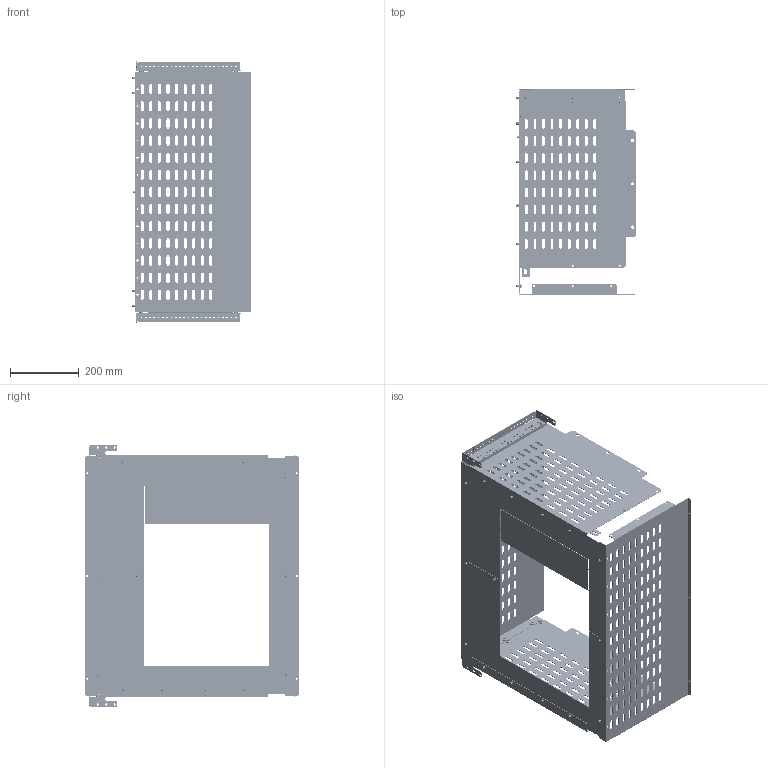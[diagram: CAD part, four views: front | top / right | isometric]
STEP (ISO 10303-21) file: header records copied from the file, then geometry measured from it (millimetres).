
FILE_DESCRIPTION (( 'STEP AP214' ), '1' );
FILE_NAME ('FO-00-3AEFW-060-080 Êîìïëåêò ñåêöèîíèðîâàíèÿ 2a-3a äëÿ ARMAT ACB òèïîðàçìåð EIIF âûêàòíîãî èñïîëíåíèÿ 3II4P 600õ800.STEP', '2025-08-21T07:20:53', ( '' ), ( '' ), 'SwSTEP 2.0', 'SolidWorks 2023', '' );
FILE_SCHEMA (( 'AUTOMOTIVE_DESIGN' ));
Length unit declared in the file: millimetre
Products named in the file (1): FO-00-3AEFW-060-080 Комплект секционирования 2a-3a для ARMAT ACB типоразмер EIIF выкатного исполнения 3II4P 600х800
Bounding box: 349 x 622 x 766 mm (x, y, z)
Volume: 1753829.4 mm3; surface area: 2224812.3 mm2
Topology: 1 solids, 17 shells, 3388 faces, 9701 edges, 6399 vertices
Faces by surface type: cylinder 1913, plane 1313, cone 54, torus 54, sphere 54
Entity records: 115270 total; most frequent: CARTESIAN_POINT 21804, DIRECTION 19659, ORIENTED_EDGE 19402, EDGE_CURVE 9701, AXIS2_PLACEMENT_3D 7062, VERTEX_POINT 6399, LINE 5535, VECTOR 5535
